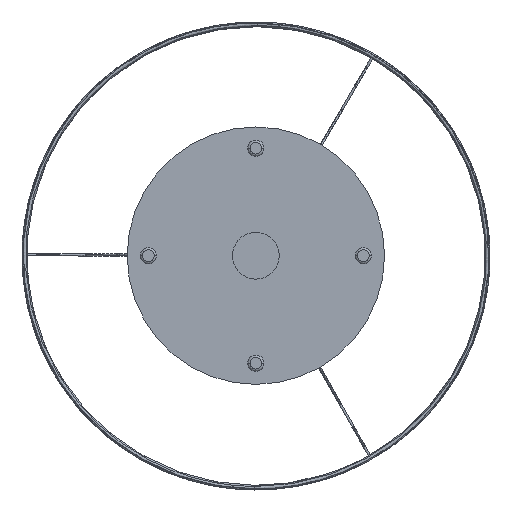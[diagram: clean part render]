
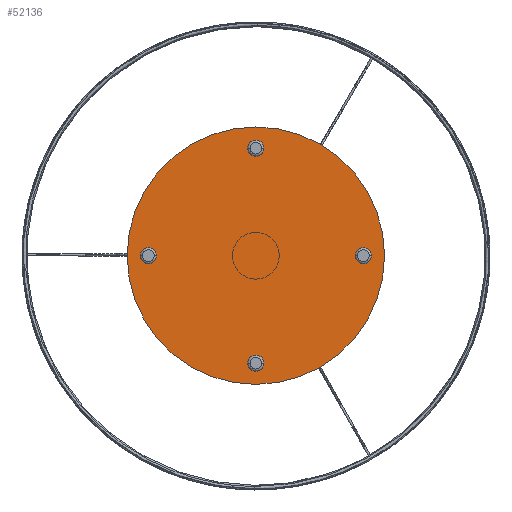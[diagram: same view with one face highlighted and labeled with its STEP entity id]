
A CAD part, front view. The second image highlights one B-rep face of the part: STEP entity #52136.
In plain terms, the highlighted planar face has unit normal (0, -1, 0) as drawn and (0, 0, 1) by its records, which use the part's own axes.
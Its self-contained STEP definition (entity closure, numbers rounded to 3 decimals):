
#101 = EDGE_CURVE ( 'NONE', #55198, #32502, #7947, .T. ) ;
#1123 = EDGE_CURVE ( 'NONE', #62563, #39930, #48116, .T. ) ;
#1186 = DIRECTION ( 'NONE',  ( 1., 0., 0. ) ) ;
#1286 = CARTESIAN_POINT ( 'NONE',  ( -6.965, -91.879, 2. ) ) ;
#1634 = CIRCLE ( 'NONE', #10539, 6.965 ) ;
#1738 = CIRCLE ( 'NONE', #7324, 6.965 ) ;
#2016 = EDGE_CURVE ( 'NONE', #65472, #52037, #55994, .T. ) ;
#2476 = FACE_OUTER_BOUND ( 'NONE', #45984, .T. ) ;
#3459 = CIRCLE ( 'NONE', #31383, 6.965 ) ;
#3936 = CARTESIAN_POINT ( 'NONE',  ( -110., 0., 2. ) ) ;
#4308 = CARTESIAN_POINT ( 'NONE',  ( -98.844, 0., 2. ) ) ;
#4600 = EDGE_CURVE ( 'NONE', #11532, #61084, #3459, .T. ) ;
#6007 = AXIS2_PLACEMENT_3D ( 'NONE', #20219, #16011, #68899 ) ;
#7324 = AXIS2_PLACEMENT_3D ( 'NONE', #18954, #66611, #13386 ) ;
#7947 = CIRCLE ( 'NONE', #30232, 6.965 ) ;
#8212 = CIRCLE ( 'NONE', #47280, 110. ) ;
#10539 = AXIS2_PLACEMENT_3D ( 'NONE', #21869, #47426, #43212 ) ;
#11427 = DIRECTION ( 'NONE',  ( 0., 0., 1. ) ) ;
#11532 = VERTEX_POINT ( 'NONE', #31114 ) ;
#11931 = DIRECTION ( 'NONE',  ( 0., 0., 1. ) ) ;
#12965 = FACE_BOUND ( 'NONE', #32157, .T. ) ;
#13386 = DIRECTION ( 'NONE',  ( 0., -1., 0. ) ) ;
#14705 = CARTESIAN_POINT ( 'NONE',  ( 91.879, 0., 2. ) ) ;
#15614 = DIRECTION ( 'NONE',  ( 0., 1., 0. ) ) ;
#15629 = ORIENTED_EDGE ( 'NONE', *, *, #1123, .F. ) ;
#16011 = DIRECTION ( 'NONE',  ( 0., 0., 1. ) ) ;
#17653 = CARTESIAN_POINT ( 'NONE',  ( -91.879, 0., 2. ) ) ;
#18682 = EDGE_LOOP ( 'NONE', ( #15629, #56575 ) ) ;
#18954 = CARTESIAN_POINT ( 'NONE',  ( 91.879, 0., 2. ) ) ;
#20219 = CARTESIAN_POINT ( 'NONE',  ( 0., 0., 2. ) ) ;
#20616 = DIRECTION ( 'NONE',  ( 0., 0., 1. ) ) ;
#21287 = AXIS2_PLACEMENT_3D ( 'NONE', #14705, #20616, #26562 ) ;
#21685 = ORIENTED_EDGE ( 'NONE', *, *, #2016, .F. ) ;
#21869 = CARTESIAN_POINT ( 'NONE',  ( 0., -91.879, 2. ) ) ;
#22897 = AXIS2_PLACEMENT_3D ( 'NONE', #47798, #11427, #15614 ) ;
#23386 = DIRECTION ( 'NONE',  ( 1., 0., 0. ) ) ;
#24953 = DIRECTION ( 'NONE',  ( 1., 0., 0. ) ) ;
#26562 = DIRECTION ( 'NONE',  ( 0., -1., 0. ) ) ;
#28647 = CARTESIAN_POINT ( 'NONE',  ( 0., 91.879, 2. ) ) ;
#30232 = AXIS2_PLACEMENT_3D ( 'NONE', #49859, #44606, #44953 ) ;
#31114 = CARTESIAN_POINT ( 'NONE',  ( -84.913, 0., 2. ) ) ;
#31383 = AXIS2_PLACEMENT_3D ( 'NONE', #17653, #38987, #60352 ) ;
#32037 = VERTEX_POINT ( 'NONE', #3936 ) ;
#32157 = EDGE_LOOP ( 'NONE', ( #54624, #68329 ) ) ;
#32502 = VERTEX_POINT ( 'NONE', #34021 ) ;
#32652 = DIRECTION ( 'NONE',  ( 0., 0., 1. ) ) ;
#33093 = ORIENTED_EDGE ( 'NONE', *, *, #36155, .T. ) ;
#33591 = CARTESIAN_POINT ( 'NONE',  ( 0., 0., 2. ) ) ;
#34021 = CARTESIAN_POINT ( 'NONE',  ( 6.965, -91.879, 2. ) ) ;
#35380 = VERTEX_POINT ( 'NONE', #47833 ) ;
#35803 = CARTESIAN_POINT ( 'NONE',  ( 84.913, 0., 2. ) ) ;
#36155 = EDGE_CURVE ( 'NONE', #32037, #35380, #8212, .T. ) ;
#38490 = PLANE ( 'NONE',  #51938 ) ;
#38830 = FACE_BOUND ( 'NONE', #18682, .T. ) ;
#38987 = DIRECTION ( 'NONE',  ( 0., 0., 1. ) ) ;
#39692 = CIRCLE ( 'NONE', #22897, 6.965 ) ;
#39873 = FACE_BOUND ( 'NONE', #65372, .T. ) ;
#39930 = VERTEX_POINT ( 'NONE', #40383 ) ;
#40383 = CARTESIAN_POINT ( 'NONE',  ( 98.844, 0., 2. ) ) ;
#42244 = EDGE_CURVE ( 'NONE', #35380, #32037, #57408, .T. ) ;
#42298 = EDGE_LOOP ( 'NONE', ( #56791, #21685 ) ) ;
#43212 = DIRECTION ( 'NONE',  ( -1., 0., 0. ) ) ;
#44072 = EDGE_CURVE ( 'NONE', #52037, #65472, #60801, .T. ) ;
#44606 = DIRECTION ( 'NONE',  ( 0., 0., 1. ) ) ;
#44953 = DIRECTION ( 'NONE',  ( -1., 0., 0. ) ) ;
#45120 = DIRECTION ( 'NONE',  ( 1., 0., 0. ) ) ;
#45984 = EDGE_LOOP ( 'NONE', ( #33093, #67692 ) ) ;
#47280 = AXIS2_PLACEMENT_3D ( 'NONE', #62429, #62763, #24953 ) ;
#47426 = DIRECTION ( 'NONE',  ( 0., 0., 1. ) ) ;
#47798 = CARTESIAN_POINT ( 'NONE',  ( -91.879, 0., 2. ) ) ;
#47833 = CARTESIAN_POINT ( 'NONE',  ( 110., 0., 2. ) ) ;
#48057 = ORIENTED_EDGE ( 'NONE', *, *, #101, .F. ) ;
#48116 = CIRCLE ( 'NONE', #21287, 6.965 ) ;
#48344 = EDGE_CURVE ( 'NONE', #32502, #55198, #1634, .T. ) ;
#49859 = CARTESIAN_POINT ( 'NONE',  ( 0., -91.879, 2. ) ) ;
#50375 = FACE_BOUND ( 'NONE', #42298, .T. ) ;
#51832 = AXIS2_PLACEMENT_3D ( 'NONE', #65229, #32652, #1186 ) ;
#51938 = AXIS2_PLACEMENT_3D ( 'NONE', #33591, #11931, #45120 ) ;
#52037 = VERTEX_POINT ( 'NONE', #60889 ) ;
#52136 = ADVANCED_FACE ( 'NONE', ( #38830, #39873, #12965, #50375, #2476 ), #38490, .T. ) ;
#54624 = ORIENTED_EDGE ( 'NONE', *, *, #55075, .F. ) ;
#55075 = EDGE_CURVE ( 'NONE', #61084, #11532, #39692, .T. ) ;
#55198 = VERTEX_POINT ( 'NONE', #1286 ) ;
#55994 = CIRCLE ( 'NONE', #60432, 6.965 ) ;
#56575 = ORIENTED_EDGE ( 'NONE', *, *, #58943, .F. ) ;
#56791 = ORIENTED_EDGE ( 'NONE', *, *, #44072, .F. ) ;
#57408 = CIRCLE ( 'NONE', #6007, 110. ) ;
#58943 = EDGE_CURVE ( 'NONE', #39930, #62563, #1738, .T. ) ;
#60352 = DIRECTION ( 'NONE',  ( 0., 1., 0. ) ) ;
#60432 = AXIS2_PLACEMENT_3D ( 'NONE', #28647, #61548, #23386 ) ;
#60801 = CIRCLE ( 'NONE', #51832, 6.965 ) ;
#60889 = CARTESIAN_POINT ( 'NONE',  ( -6.965, 91.879, 2. ) ) ;
#61084 = VERTEX_POINT ( 'NONE', #4308 ) ;
#61548 = DIRECTION ( 'NONE',  ( 0., 0., 1. ) ) ;
#62429 = CARTESIAN_POINT ( 'NONE',  ( 0., 0., 2. ) ) ;
#62563 = VERTEX_POINT ( 'NONE', #35803 ) ;
#62763 = DIRECTION ( 'NONE',  ( 0., 0., 1. ) ) ;
#62868 = ORIENTED_EDGE ( 'NONE', *, *, #48344, .F. ) ;
#65229 = CARTESIAN_POINT ( 'NONE',  ( 0., 91.879, 2. ) ) ;
#65254 = CARTESIAN_POINT ( 'NONE',  ( 6.965, 91.879, 2. ) ) ;
#65372 = EDGE_LOOP ( 'NONE', ( #48057, #62868 ) ) ;
#65472 = VERTEX_POINT ( 'NONE', #65254 ) ;
#66611 = DIRECTION ( 'NONE',  ( 0., 0., 1. ) ) ;
#67692 = ORIENTED_EDGE ( 'NONE', *, *, #42244, .T. ) ;
#68329 = ORIENTED_EDGE ( 'NONE', *, *, #4600, .F. ) ;
#68899 = DIRECTION ( 'NONE',  ( 1., 0., 0. ) ) ;
